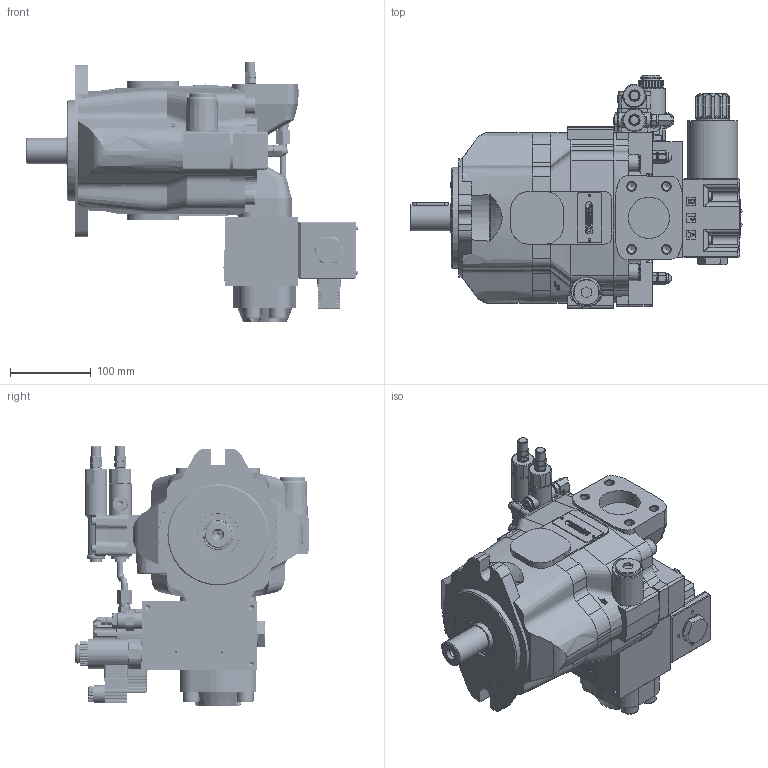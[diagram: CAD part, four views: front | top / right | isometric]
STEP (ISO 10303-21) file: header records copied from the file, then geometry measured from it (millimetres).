
FILE_DESCRIPTION( ( 'STEP AP203' ), '1' );
FILE_NAME( 'C:/Users/pmmorelli/Documents/cadenas_stp/VPPM-073PQCE5-R55S_11N000_front.stp', ' ', ( ' ' ), ( ' ' ), 'PSStep 15.0.47', 'PARTsolutions', ' ' );
FILE_SCHEMA( ( 'CONFIG_CONTROL_DESIGN' ) );
Length unit declared in the file: millimetre
Products named in the file (49): VPPM-073PQCE5-R55S/11N000_front; _48416101-R; _23390030; HI_36190010; _42136810; _42136760; _06870010; _06870000; HI_0530055; _0551527; _0570181; _0770325; HI_0530528_; _36740210; _0771774; _0510169-VPPM-073-087PQCE-DX_0; _0125146-02; _0770106; HI_0530193; _0118966; _0134669; _190301; _0119383; _0670792; _026973; _3001350000; _0530523; HI_0530052; _0770302; _190295; _026972; _0 UNI 5931 - M5x8; _Rosetta UNI 6592 TC-5.3; _0118991-03; _0119454-01; _0112702; _0122447-01(PT); _0112816; _0112703; _0112704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
Assembly tree (73 placements, depth 2):
  VPPM-073PQCE5-R55S/11N000_front
    _48416101-R
    _23390030
    HI_36190010  x4
    _42136810  x2
    _42136760  x2
    _06870010
    _06870000
    HI_0530055  x4
    _0551527  x3
    _0570181  x3
    _0770325  x4
    HI_0530528_  x2
    _36740210  x2
    _0771774
    _0510169-VPPM-073-087PQCE-DX_0
    _0125146-02
    _0770106
    HI_0530193  x4
    _0118966
    _0134669
    _190301
    _0119383
    _0670792  x2
    _026973
    _3001350000
    _0530523  x2
    HI_0530052  x4
    _0770302
    _190295
    _026972
    _0 UNI 5931 - M5x8
    _Rosetta UNI 6592 TC-5.3
    _0118991-03
    _0119454-01
    _0112702
    _0122447-01(PT)
    _0112816
    _0112703
    _0112704
    _UNI 5589 M10 0532040
    _0112827
    _3001040200
    _47555520
    HI_42799950
    _39790100
    HI_40880500
    _0771483_
    _3001200200-00
Bounding box: 410.18 x 289.3 x 322.3 mm (x, y, z)
Volume: 8298634.3 mm3; surface area: 798660.9 mm2
Topology: 73 solids, 73 shells, 4111 faces, 10329 edges, 6680 vertices
Faces by surface type: plane 2216, cylinder 1207, cone 563, torus 97, bspline 26, sphere 2
Full cylindrical faces by diameter (mm): 0.5 x1, 1.5 x3, 1.7 x2, 2 x3, 2.459 x2, 2.5 x10, 2.6 x2, 2.9 x2, 3 x10, 3.22 x2, 3.242 x5, 3.5 x1, 4 x9, 4.134 x1, 4.8 x2, 4.917 x11, 5 x6, 5.3 x1, 6 x10, 6.3 x6, 6.5 x8, 6.647 x7, 6.8 x2, 7 x2, 8 x4, 8.376 x3, 8.5 x3, 8.566 x2, 8.7 x4, 9 x3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
Entity records: 109754 total; most frequent: CARTESIAN_POINT 28780, DIRECTION 16457, ORIENTED_EDGE 15708, EDGE_CURVE 7854, AXIS2_PLACEMENT_3D 6046, VERTEX_POINT 5497, EDGE_LOOP 4385, LINE 4365
